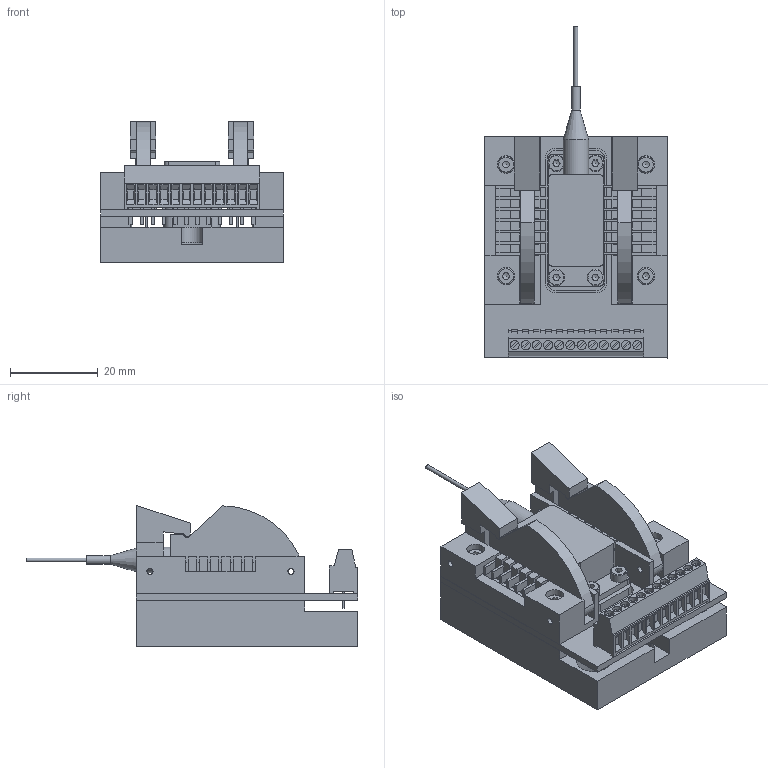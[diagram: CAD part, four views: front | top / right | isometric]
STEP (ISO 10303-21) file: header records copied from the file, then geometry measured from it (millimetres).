
FILE_DESCRIPTION(/* description */ ('STEP AP242','CAx-IF Rec.Pracs.---Representation and Presentation of Product Manufacturing Information (PMI)---4.0---2014-10-13','CAx-IF Rec.Pracs.---3D Tessellated Geometry---0.4---2014-09-14','2;1'),/* implementation_level */ '2;1');
FILE_NAME(/* name */ '653a5b9a78165d3d12bdbc22',/* time_stamp */ '2023-10-26T12:29:16Z',/* author */ (''),/* organization */ (''),/* preprocessor_version */ 'ST-DEVELOPER v19.4',/* originating_system */ ' ',/* authorisation */ ' ');
FILE_SCHEMA (('AP242_MANAGED_MODEL_BASED_3D_ENGINEERING_MIM_LF { 1 0 10303 442 1 1 4 }'));
Length unit declared in the file: metre
Products named in the file (49): BTF100-ZIF_ASSEMBLY; 1-282834-2; ZIF_LARGE_clamp1; butterfly_laser_diode; Hex socket head cap screw M2x0.40 x 6; ZIF_LARGE_clamp1_1; Hex socket head cap screw M2x0.40 x 10; ZIF_LARGE_clamp2_1; Open CASCADE STEP translator 6.8 1.1.1; Part 1; ZIF_LARGE_clamp2; ZIF_LARGE_BASE; ZIF_LARGE_BASE_1
Assembly tree (55 placements, depth 2):
  BTF100-ZIF_ASSEMBLY
    1-282834-2
    ZIF_LARGE_clamp1
    butterfly_laser_diode
    1-282834-2
    1-282834-2
    Hex socket head cap screw M2x0.40 x 6  x4
    1-282834-2
    1-282834-2
    ZIF_LARGE_clamp1_1
    Hex socket head cap screw M2x0.40 x 10  x5
    ZIF_LARGE_clamp2_1
    1-282834-2
    1-282834-2
    1-282834-2
    1-282834-2
    1-282834-2
    1-282834-2
    1-282834-2
    1-282834-2
    Open CASCADE STEP translator 6.8 1.1.1
    1-282834-2
    1-282834-2
    1-282834-2
    1-282834-2
    Part 1
    1-282834-2
    1-282834-2
    1-282834-2
    1-282834-2
    1-282834-2
    1-282834-2
    ZIF_LARGE_clamp2
    1-282834-2
    1-282834-2
    1-282834-2
    1-282834-2
    ZIF_LARGE_BASE
    1-282834-2
    1-282834-2
    1-282834-2
    1-282834-2
    1-282834-2
    1-282834-2
    1-282834-2
    1-282834-2
    1-282834-2
    1-282834-2
    ZIF_LARGE_BASE_1
Bounding box: 41.5 x 75.54 x 32.09 mm (x, y, z)
Volume: 31428.4 mm3; surface area: 26525 mm2
Topology: 55 solids, 55 shells, 1280 faces, 3164 edges, 2055 vertices
Faces by surface type: plane 1041, cylinder 176, cone 36, torus 27
Full cylindrical faces by diameter (mm): 0.9 x13, 1 x14, 1.35 x4, 1.4 x8, 1.6 x8, 1.9 x1, 2 x9, 2.1 x24, 2.4 x4, 2.438 x4, 2.5 x5, 2.7 x4, 3.8 x9, 4 x4, 4.5 x4, 5.8 x1, 6.6 x2, 7.6 x4, 10.8 x2
Entity records: 34514 total; most frequent: CARTESIAN_POINT 5581, DIRECTION 5347, ORIENTED_EDGE 5228, EDGE_CURVE 2614, LINE 2227, VECTOR 2227, VERTEX_POINT 1786, AXIS2_PLACEMENT_3D 1560
